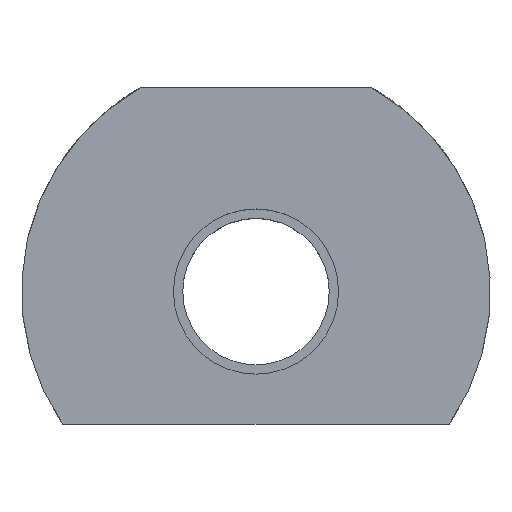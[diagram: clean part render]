
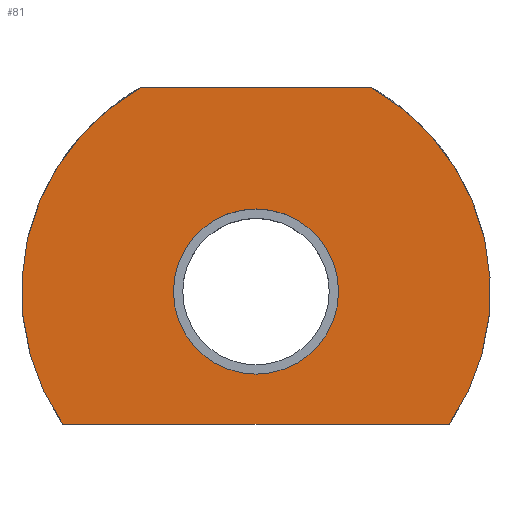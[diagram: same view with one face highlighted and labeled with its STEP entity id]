
A CAD part, top view. The second image highlights one B-rep face of the part: STEP entity #81.
In plain terms, the highlighted planar face has unit normal (0, 0, 1).
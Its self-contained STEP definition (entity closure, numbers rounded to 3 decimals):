
#81 = ADVANCED_FACE( '', ( #131, #132 ), #133, .T. );
#131 = FACE_BOUND( '', #228, .T. );
#132 = FACE_OUTER_BOUND( '', #229, .T. );
#133 = PLANE( '', #230 );
#228 = EDGE_LOOP( '', ( #339 ) );
#229 = EDGE_LOOP( '', ( #340, #341, #342, #343 ) );
#230 = AXIS2_PLACEMENT_3D( '', #344, #345, #346 );
#339 = ORIENTED_EDGE( '', *, *, #574, .T. );
#340 = ORIENTED_EDGE( '', *, *, #575, .T. );
#341 = ORIENTED_EDGE( '', *, *, #576, .T. );
#342 = ORIENTED_EDGE( '', *, *, #577, .T. );
#343 = ORIENTED_EDGE( '', *, *, #578, .T. );
#344 = CARTESIAN_POINT( '', ( 0., 0., 7.5 ) );
#345 = DIRECTION( '', ( 0., 0., 1. ) );
#346 = DIRECTION( '', ( 1., 0., 0. ) );
#574 = EDGE_CURVE( '', #657, #657, #658, .T. );
#575 = EDGE_CURVE( '', #659, #660, #661, .T. );
#576 = EDGE_CURVE( '', #660, #662, #663, .T. );
#577 = EDGE_CURVE( '', #662, #664, #665, .T. );
#578 = EDGE_CURVE( '', #664, #659, #666, .T. );
#657 = VERTEX_POINT( '', #852 );
#658 = CIRCLE( '', #853, 8.1 );
#659 = VERTEX_POINT( '', #854 );
#660 = VERTEX_POINT( '', #855 );
#661 = LINE( '', #856, #857 );
#662 = VERTEX_POINT( '', #858 );
#663 = CIRCLE( '', #859, 23. );
#664 = VERTEX_POINT( '', #860 );
#665 = LINE( '', #861, #862 );
#666 = CIRCLE( '', #863, 23. );
#852 = CARTESIAN_POINT( '', ( -8.1, 0., 7.5 ) );
#853 = AXIS2_PLACEMENT_3D( '', #1071, #1072, #1073 );
#854 = CARTESIAN_POINT( '', ( 11.358, 20., 7.5 ) );
#855 = CARTESIAN_POINT( '', ( -11.358, 20., 7.5 ) );
#856 = CARTESIAN_POINT( '', ( 11.358, 20., 7.5 ) );
#857 = VECTOR( '', #1074, 1000. );
#858 = CARTESIAN_POINT( '', ( -18.974, -13., 7.5 ) );
#859 = AXIS2_PLACEMENT_3D( '', #1075, #1076, #1077 );
#860 = CARTESIAN_POINT( '', ( 18.974, -13., 7.5 ) );
#861 = CARTESIAN_POINT( '', ( -18.974, -13., 7.5 ) );
#862 = VECTOR( '', #1078, 1000. );
#863 = AXIS2_PLACEMENT_3D( '', #1079, #1080, #1081 );
#1071 = CARTESIAN_POINT( '', ( 0., 0., 7.5 ) );
#1072 = DIRECTION( '', ( 0., 0., -1. ) );
#1073 = DIRECTION( '', ( -1., 0., 0. ) );
#1074 = DIRECTION( '', ( -1., 0., 0. ) );
#1075 = CARTESIAN_POINT( '', ( 0., 0., 7.5 ) );
#1076 = DIRECTION( '', ( 0., 0., 1. ) );
#1077 = DIRECTION( '', ( 1., 0., 0. ) );
#1078 = DIRECTION( '', ( 1., 0., 0. ) );
#1079 = CARTESIAN_POINT( '', ( 0., 0., 7.5 ) );
#1080 = DIRECTION( '', ( 0., 0., 1. ) );
#1081 = DIRECTION( '', ( 1., 0., 0. ) );
